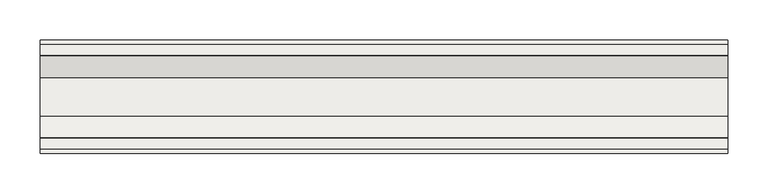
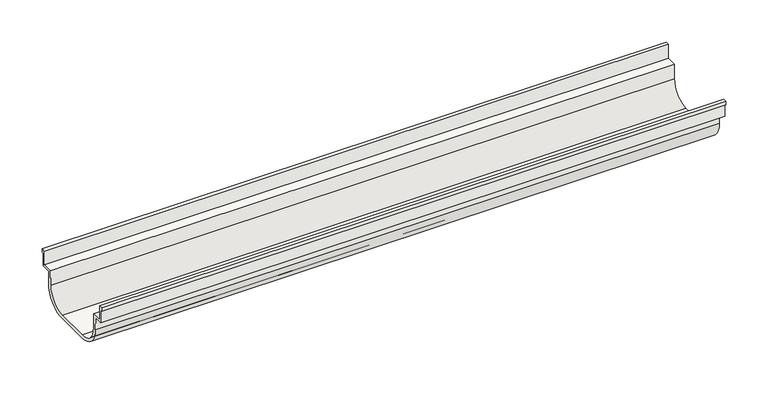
"""IFC4 building model written with IfcOpenShell, lengths in millimetres: slab geometry, ROSA GRES_CRA C1 : Pieza CRA C1."""

from ifc_helpers import new_model, si_unit, point, frame, frame_2d, origin, place, context, project, spatial, polyline, circle_curve, trimmed, segment, composite_curve, outline, extrude, source, transform, mapped, element, save


def slab_b985033c(model_context):
    return source(origin(), model_context, "Body", "SweptSolid", [
        extrude(outline(composite_curve([segment(polyline([(0.0, -5.0), (0.0, 0.0), (5.0, 0.0), (5.0, -20.0), (19.0, -20.0), (19.3573264, -40.471215)]), True, "CONTINUOUS"), segment(trimmed(circle_curve(frame_2d((46.3532142, -40.0)), 27.0), [point((19.3573264, -40.471215))], [point((46.3532142, -67.0))], True, "CARTESIAN"), True, "CONTINUOUS"), segment(polyline([(46.3532142, -67.0), (93.6467858, -67.0)]), True, "CONTINUOUS"), segment(trimmed(circle_curve(frame_2d((93.6467858, -40.0)), 27.0), [point((93.6467858, -67.0))], [point((120.6426736, -40.471215))], True, "CARTESIAN"), True, "CONTINUOUS"), segment(polyline([(120.6426736, -40.471215), (121.0, -20.0), (135.0, -20.0), (135.0, 0.0), (140.0, 0.0), (140.0, -5.0), (137.6, -5.0), (137.6, -23.0), (125.4983279, -23.0), (125.1919806, -40.5506234)]), True, "CONTINUOUS"), segment(trimmed(circle_curve(frame_2d((93.6467858, -40.0)), 31.55), [point((125.1919806, -40.5506234))], [point((93.6467858, -71.55))], False, "CARTESIAN"), True, "CONTINUOUS"), segment(polyline([(93.6467858, -71.55), (46.3532142, -71.55)]), True, "CONTINUOUS"), segment(trimmed(circle_curve(frame_2d((46.3532142, -40.0)), 31.55), [point((46.3532142, -71.55))], [point((14.8080194, -40.5506234))], False, "CARTESIAN"), True, "CONTINUOUS"), segment(polyline([(14.8080194, -40.5506234), (14.5016721, -23.0), (2.4, -23.0), (2.4, -5.0), (0.0, -5.0)]), True, "CONTINUOUS")], self_intersect=False)), frame((0.0, 0.0, 0.0), z_axis=(1.0, 0.0, 0.0), x_axis=(0.0, 1.0, 0.0)), (0.0, 0.0, 1.0), 850.0),
    ])


if __name__ == "__main__":
    model = new_model("IFC4")
    model_context = context("Model", 3, world=origin())
    ifc_project = project(units=[si_unit("LENGTHUNIT", "METRE", prefix="MILLI")], contexts=[model_context])
    site = spatial("IfcSite", under=ifc_project)
    building = spatial("IfcBuilding", under=site)
    placement = place(None, origin())
    slab_shape = slab_b985033c(model_context)
    element("IfcSlab", 1, ObjectType="ROSA GRES_CRA C1 : Pieza CRA C1", at=placement, inside=building, context=model_context, shape_type="MappedRepresentation", body=[
        mapped(slab_shape, transform((0.0, 0.0, 0.0), x_axis=(1.0, 0.0, 0.0), y_axis=(0.0, 1.0, 0.0), z_axis=(0.0, 0.0, 1.0))),
    ])
    save(model, "model.ifc")
